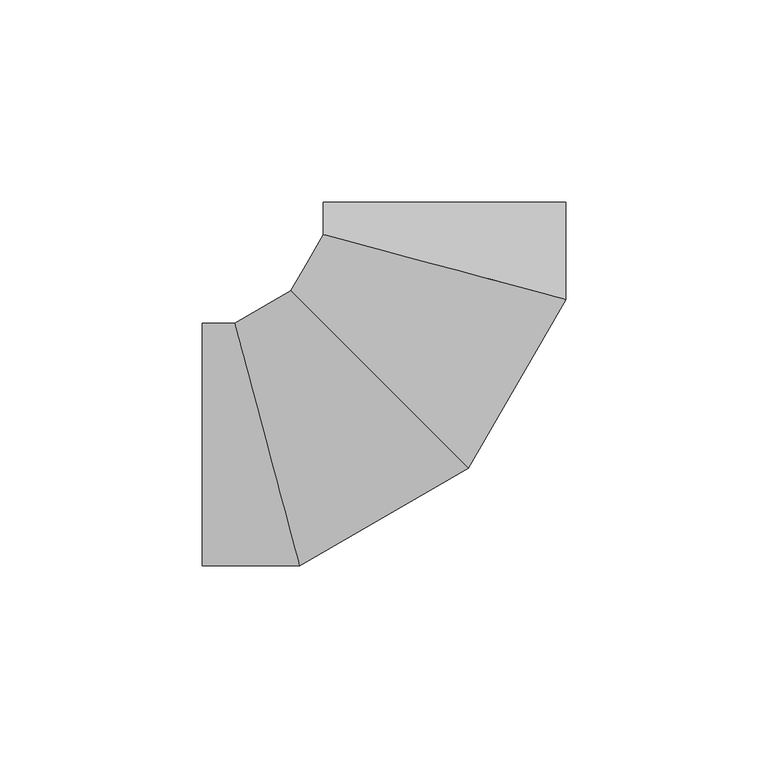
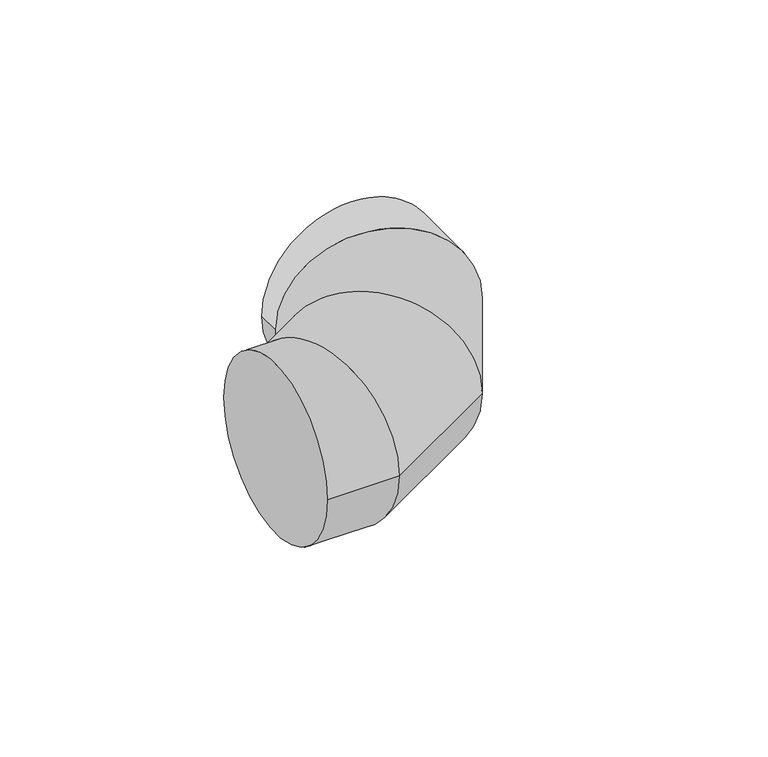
"""IFC4 building model written with IfcOpenShell, lengths in millimetres: duct fitting geometry, 17_Отвод_Заключение : 10_Отвод_3D объект."""

from ifc_helpers import new_model, si_unit, frame, origin, place, context, project, spatial, circle_curve, ellipse_curve, source, transform, mapped, element, save
from ifc_brep_helpers import plane_surface, cylinder_surface, advanced_brep


def duct_fitting_27cbf9b6(model_context):
    return source(origin(), model_context, "Body", "AdvancedBrep", [
        advanced_brep(
        [(-60.0, -30.0, 0.0), (-60.0, 30.0, 0.0), (-35.8845727, -30.0, 0.0), (-51.9615242, 30.0, 0.0), (5.8845727, -5.8845727, 0.0), (-38.0384758, 38.0384758, 0.0), (30.0, 35.8845727, 0.0), (-30.0, 51.9615242, 0.0), (30.0, 60.0, 0.0), (-30.0, 60.0, 0.0)],
        [
            (0, 1, circle_curve(frame((-60.0, 0.0, 0.0), z_axis=(-1.0, 0.0, 0.0), x_axis=(0.0, 1.0, 0.0)), 30.0)),
            (1, 0, circle_curve(frame((-60.0, 0.0, 0.0), z_axis=(-1.0, 0.0, 0.0), x_axis=(0.0, 1.0, 0.0)), 30.0)),
            (0, 2),
            (2, 3, ellipse_curve(frame((-43.9230485, 0.0, 0.0), z_axis=(-0.9659258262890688, -0.258819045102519, 0.0), x_axis=(-0.258819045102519, 0.9659258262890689, 0.0)), 31.0582854, 30.0)),
            (3, 1),
            (3, 2, ellipse_curve(frame((-43.9230485, 0.0, 0.0), z_axis=(-0.9659258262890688, -0.258819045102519, 0.0), x_axis=(-0.258819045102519, 0.9659258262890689, 0.0)), 31.0582854, 30.0)),
            (2, 4),
            (4, 5, ellipse_curve(frame((-16.0769515, 16.0769515, 0.0), z_axis=(-0.7071067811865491, -0.7071067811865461, 0.0), x_axis=(-0.7071067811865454, 0.7071067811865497, 0.0)), 31.0582854, 30.0)),
            (5, 3),
            (5, 4, ellipse_curve(frame((-16.0769515, 16.0769515, 0.0), z_axis=(-0.7071067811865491, -0.7071067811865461, 0.0), x_axis=(-0.7071067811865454, 0.7071067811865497, 0.0)), 31.0582854, 30.0)),
            (4, 6),
            (6, 7, ellipse_curve(frame((0.0, 43.9230485, 0.0), z_axis=(-0.2588190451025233, -0.9659258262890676, 0.0), x_axis=(-0.9659258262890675, 0.25881904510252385, 0.0)), 31.0582854, 30.0)),
            (7, 5),
            (7, 6, ellipse_curve(frame((0.0, 43.9230485, 0.0), z_axis=(-0.2588190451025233, -0.9659258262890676, 0.0), x_axis=(-0.9659258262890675, 0.25881904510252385, 0.0)), 31.0582854, 30.0)),
            (8, 9, circle_curve(frame((0.0, 60.0, 0.0), z_axis=(0.0, 1.0, 0.0), x_axis=(-1.0, 0.0, 0.0)), 30.0)),
            (9, 8, circle_curve(frame((0.0, 60.0, 0.0), z_axis=(0.0, 1.0, 0.0), x_axis=(-1.0, 0.0, 0.0)), 30.0)),
            (6, 8),
            (9, 7),
        ],
        [
            plane_surface(frame((-60.0, 0.0, 0.0), z_axis=(-1.0, 0.0, 0.0), x_axis=(0.0, 0.0, 1.0))),
            cylinder_surface(frame((-60.0, 0.0, 0.0), z_axis=(-1.0, 0.0, 0.0), x_axis=(0.0, 1.0, 0.0)), 30.0),
            cylinder_surface(frame((-43.9230485, 0.0, 0.0), z_axis=(-0.8660254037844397, -0.4999999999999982, 0.0), x_axis=(-0.4999999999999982, 0.8660254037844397, 0.0)), 30.0),
            cylinder_surface(frame((-16.0769515, 16.0769515, 0.0), z_axis=(-0.5000000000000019, -0.8660254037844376, 0.0), x_axis=(-0.8660254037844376, 0.5000000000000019, 0.0)), 30.0),
            plane_surface(frame((0.0, 60.0, 0.0), z_axis=(0.0, 1.0, 0.0), x_axis=(0.0, 0.0, 1.0))),
            cylinder_surface(frame((0.0, 43.9230485, 0.0), z_axis=(0.0, -1.0, 0.0), x_axis=(-1.0, 0.0, 0.0)), 30.0),
        ],
        [
            (0, [[1, 2]]),
            (1, [[-1, 3, 4, 5]]),
            (1, [[-2, -5, 6, -3]]),
            (2, [[-4, 7, 8, 9]]),
            (2, [[-6, -9, 10, -7]]),
            (3, [[-8, 11, 12, 13]]),
            (3, [[-10, -13, 14, -11]]),
            (4, [[15, 16]]),
            (5, [[-12, 17, -16, 18]]),
            (5, [[-14, -18, -15, -17]]),
        ],
    ),
    ])


if __name__ == "__main__":
    model = new_model("IFC4")
    model_context = context("Model", 3, world=origin())
    ifc_project = project(units=[si_unit("LENGTHUNIT", "METRE", prefix="MILLI")], contexts=[model_context])
    site = spatial("IfcSite", under=ifc_project)
    building = spatial("IfcBuilding", under=site)
    placement = place(None, origin())
    duct_fitting_shape = duct_fitting_27cbf9b6(model_context)
    element("IfcDuctFitting", 1, ObjectType="17_Отвод_Заключение : 10_Отвод_3D объект", at=placement, inside=building, context=model_context, shape_type="MappedRepresentation", body=[
        mapped(duct_fitting_shape, transform((0.0, 0.0, 0.0), x_axis=(1.0, 0.0, 0.0), y_axis=(0.0, 1.0, 0.0), z_axis=(0.0, 0.0, 1.0))),
    ])
    save(model, "model.ifc")
